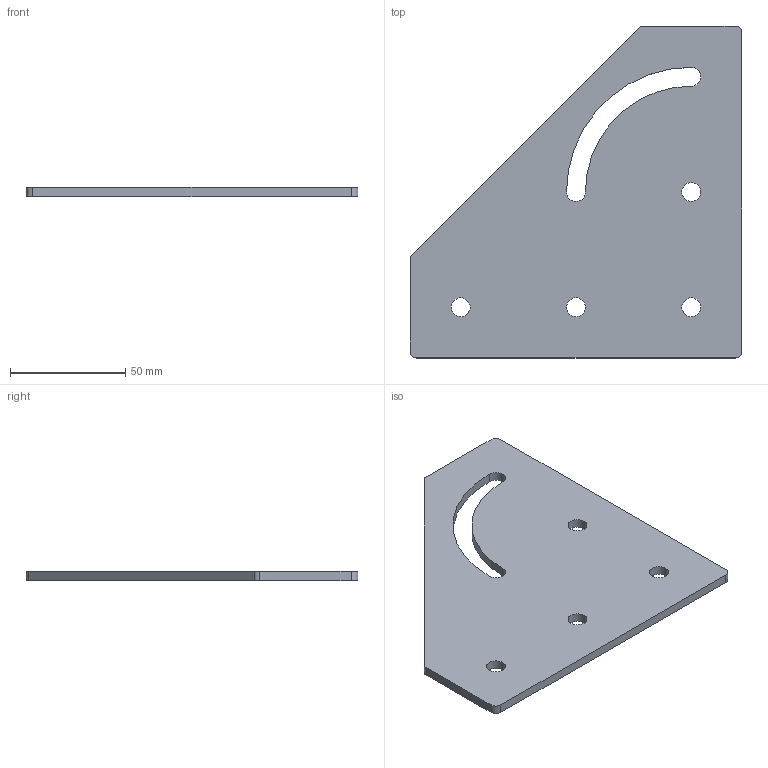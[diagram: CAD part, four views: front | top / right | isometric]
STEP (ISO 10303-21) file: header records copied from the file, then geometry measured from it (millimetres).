
FILE_DESCRIPTION (( 'STEP AP214' ), '1' );
FILE_NAME ('deg90s50.STEP', '2018-03-08T05:46:55', ( '' ), ( '' ), 'SwSTEP 2.0', 'SolidWorks 2014', '' );
FILE_SCHEMA (( 'AUTOMOTIVE_DESIGN' ));
Length unit declared in the file: millimetre
Products named in the file (2): deg90s50
Bounding box: 144 x 144 x 4 mm (x, y, z)
Volume: 59287 mm3; surface area: 32840.2 mm2
Topology: 1 solids, 1 shells, 24 faces, 66 edges, 44 vertices
Faces by surface type: cylinder 17, plane 7
Entity records: 864 total; most frequent: DIRECTION 152, CARTESIAN_POINT 136, ORIENTED_EDGE 132, EDGE_CURVE 66, AXIS2_PLACEMENT_3D 60, VERTEX_POINT 44, EDGE_LOOP 34, CIRCLE 34
